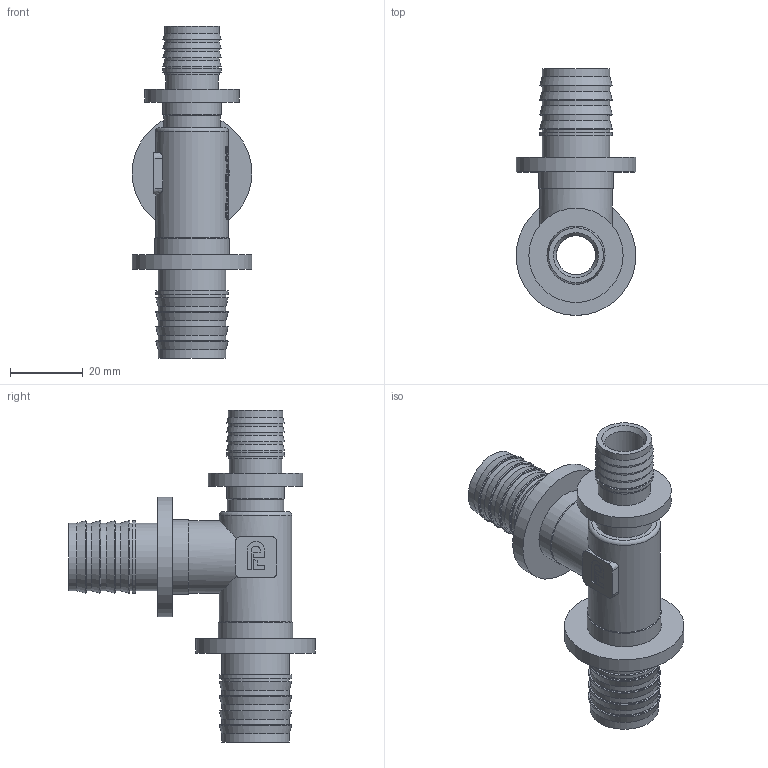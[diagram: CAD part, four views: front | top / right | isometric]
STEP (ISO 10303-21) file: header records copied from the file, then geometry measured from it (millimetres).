
FILE_DESCRIPTION(/* description */ (''),/* implementation_level */ '2;1');
FILE_NAME(/* name */ 'C:\Users\Doom\Desktop\Фадотех\Натяжка\SFT19_NEW 20x25x25 02.09.2020\SFT19_NEW 20x25x25 02.09.2020.stp',/* time_stamp */ '2022-07-25T23:56:11+03:00',/* author */ ('Doom'),/* organization */ (''),/* preprocessor_version */ 'ST-DEVELOPER v18',/* originating_system */ 'Autodesk Inventor 2020',/* authorisation */ '');
FILE_SCHEMA (('AUTOMOTIVE_DESIGN { 1 0 10303 214 3 1 1 }'));
Length unit declared in the file: millimetre
Products named in the file (1): SFT03_NEW 25 29.05.2020
Bounding box: 33 x 68 x 91.5 mm (x, y, z)
Volume: 22232 mm3; surface area: 17813.5 mm2
Topology: 1 solids, 1 shells, 256 faces, 716 edges, 499 vertices
Faces by surface type: bspline 103, plane 82, cylinder 43, cone 19, torus 9
Full cylindrical faces by diameter (mm): 10.8 x1, 14.5 x1, 14.7 x2, 15.1 x6, 15.5 x1, 16 x2, 18.626 x4, 18.7 x8, 19.9 x2, 20 x2, 20.5 x2, 26 x1, 33 x2
Entity records: 10708 total; most frequent: CARTESIAN_POINT 4480, ORIENTED_EDGE 1432, DIRECTION 1048, EDGE_CURVE 716, VERTEX_POINT 499, AXIS2_PLACEMENT_3D 390, EDGE_LOOP 297, LINE 268
